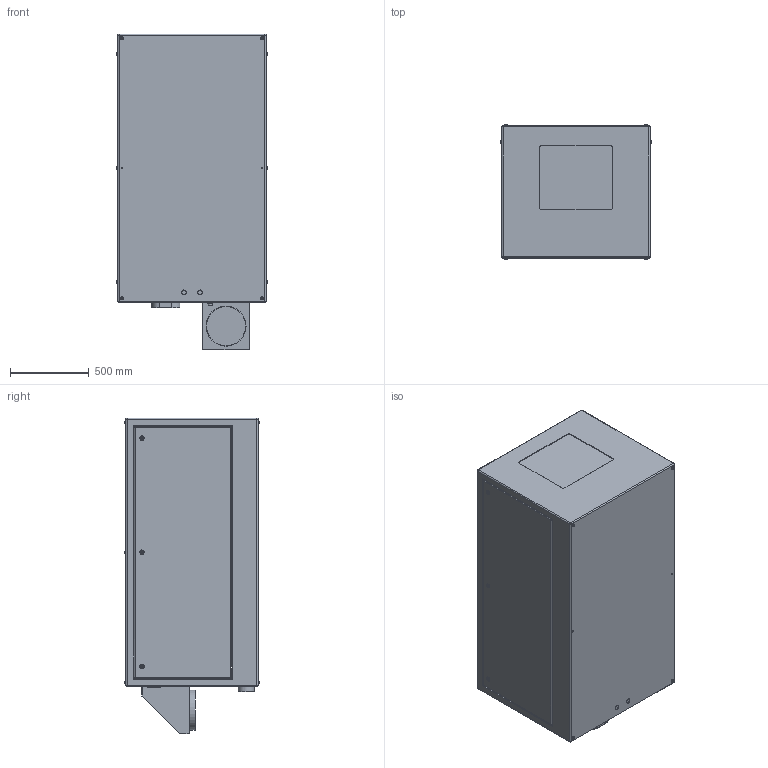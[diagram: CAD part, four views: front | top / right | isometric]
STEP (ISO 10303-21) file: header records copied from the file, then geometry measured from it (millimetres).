
FILE_DESCRIPTION (( 'STEP AP214' ), '1' );
FILE_NAME ('Cyclone 55.525.LAC.xx R08.STEP', '2020-05-08T00:33:52', ( '' ), ( '' ), 'SwSTEP 2.0', 'SolidWorks 2018', '' );
FILE_SCHEMA (( 'AUTOMOTIVE_DESIGN' ));
Length unit declared in the file: inch
Products named in the file (1): Cyclone 55.525.LAC.xx R08
Bounding box: 952.5 x 852.93 x 2004.06 mm (x, y, z)
Volume: 1354194815.8 mm3; surface area: 11295552.7 mm2
Topology: 1 solids, 3 shells, 483 faces, 1118 edges, 694 vertices
Faces by surface type: plane 236, cylinder 181, torus 44, sphere 14, bspline 8
Entity records: 18027 total; most frequent: CARTESIAN_POINT 2820, DIRECTION 2448, ORIENTED_EDGE 2196, EDGE_CURVE 1098, AXIS2_PLACEMENT_3D 898, VERTEX_POINT 694, VECTOR 652, LINE 652
